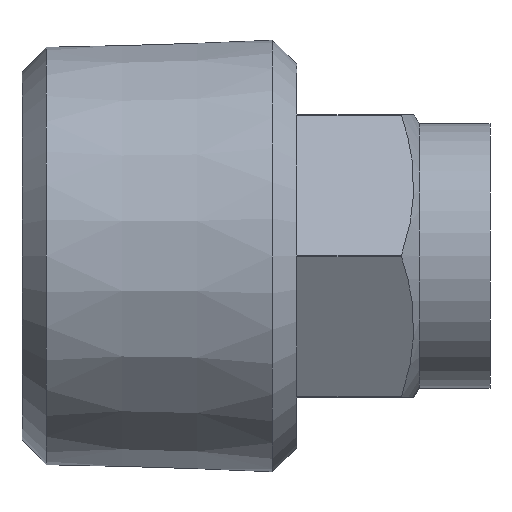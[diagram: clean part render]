
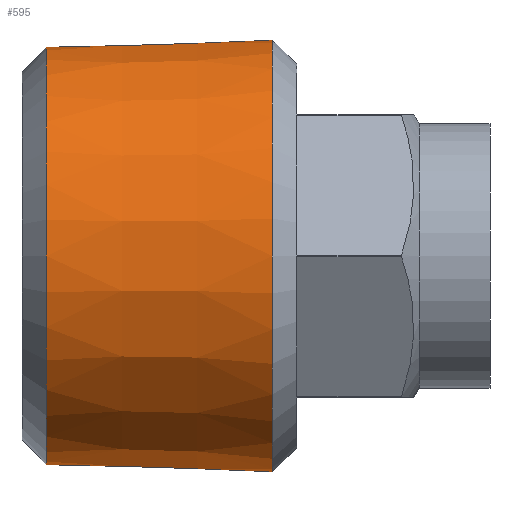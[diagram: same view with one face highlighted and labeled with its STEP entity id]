
A CAD part, front view. The second image highlights one B-rep face of the part: STEP entity #595.
In plain terms, the highlighted conical face has half-angle 1.79 degrees and reference radius 10.431 mm.
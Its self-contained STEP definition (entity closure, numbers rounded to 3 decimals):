
#561=CARTESIAN_POINT('',(12.301,10.604,0.));
#562=VERTEX_POINT('',#561);
#563=CARTESIAN_POINT('',(12.301,0.0,0.));
#564=DIRECTION('',(1.0,0.0,0.0));
#565=DIRECTION('',(0.0,-1.0,0.0));
#566=AXIS2_PLACEMENT_3D('',#563,#564,#565);
#567=CIRCLE('',#566,10.604);
#568=EDGE_CURVE('',#562,#562,#567,.T.);
#576=CARTESIAN_POINT('',(6.75,0.0,0.0));
#577=DIRECTION('',(1.0,0.0,0.0));
#578=DIRECTION('',(0.0,1.0,0.0));
#579=AXIS2_PLACEMENT_3D('',#576,#577,#578);
#580=CONICAL_SURFACE('',#579,10.431,1.79);
#581=CARTESIAN_POINT('',(1.199,10.257,0.));
#582=VERTEX_POINT('',#581);
#583=CARTESIAN_POINT('',(1.199,0.0,0.));
#584=DIRECTION('',(-1.0,0.0,0.0));
#585=DIRECTION('',(0.0,-1.0,0.0));
#586=AXIS2_PLACEMENT_3D('',#583,#584,#585);
#587=CIRCLE('',#586,10.257);
#588=EDGE_CURVE('',#582,#582,#587,.T.);
#589=ORIENTED_EDGE('',*,*,#588,.F.);
#590=EDGE_LOOP('',(#589));
#591=FACE_OUTER_BOUND('',#590,.T.);
#592=ORIENTED_EDGE('',*,*,#568,.F.);
#593=EDGE_LOOP('',(#592));
#594=FACE_BOUND('',#593,.T.);
#595=ADVANCED_FACE('',(#591,#594),#580,.T.);
